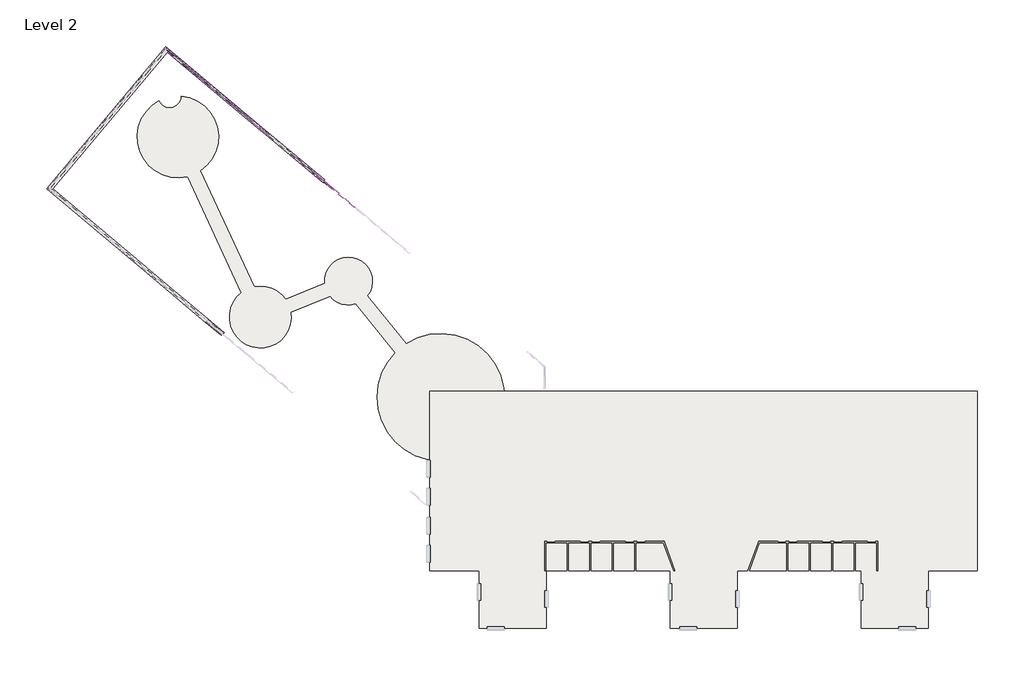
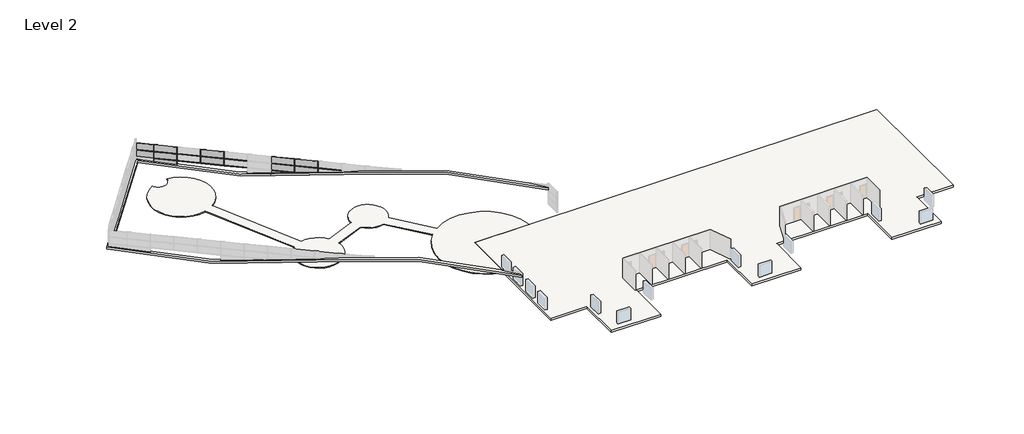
# One storey, part 4 of 4: 31 members, 13 plates, 2 slabs, 1 roof.
"""IFC4 building model written with IfcOpenShell, lengths in millimetres."""

from ifc_helpers import new_model, si_unit, frame, origin, place, context, project, spatial, polyline, circle_curve, ellipse_curve, faceted_brep, transform, mapped, element, save
from ifc_brep_helpers import plane_surface, cylinder_surface, revolved_surface, advanced_brep
from components import member_e6b937b8, member_cde82aea, member_70ad9082, member_a898b6db, member_0bdf605d, member_eaba9652, member_66afc3ec, member_c9c0cf30, member_407e5b0f, member_b57fb3e6, member_07ca578d, member_26bdc30a, system_panel_glazed_a2c5a472, system_panel_glazed_ccf48815, system_panel_glazed_69d86347, system_panel_glazed_9bbf47e9, system_panel_glazed_cec11053, system_panel_glazed_2896c521

model = new_model("IFC4")

# Units and contexts
model_context = context("Model", 3, world=origin())
ifc_project = project(units=[si_unit("LENGTHUNIT", "METRE", prefix="MILLI")], contexts=[model_context])

# Site, building, storey
site = spatial("IfcSite", under=ifc_project)
building = spatial("IfcBuilding", under=site)
storey = spatial("IfcBuildingStorey", under=building, Name="Level 2", Elevation=3048.0)

# Members
placement = place(None, origin())
member_shape = member_e6b937b8(model_context)
element("IfcMember", 1, ObjectType="Rectangular Mullion : 1.5\" x 2.5\" rectangular", at=placement, inside=storey, context=model_context, shape_type="MappedRepresentation", body=[
    mapped(member_shape, transform((-44606.1504378, 46018.2846161, 5066.7444177), x_axis=(0.76604444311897, -0.6427876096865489, 0.0), y_axis=(0.6427876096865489, 0.76604444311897, 0.0), z_axis=(0.0, 0.0, 1.0))),
])
element("IfcMember", 2, ObjectType="Rectangular Mullion : 1.5\" x 2.5\" rectangular", at=placement, inside=storey, context=model_context, shape_type="MappedRepresentation", body=[
    mapped(member_shape, transform((-42271.2469751, 44059.0679818, 5066.7444177), x_axis=(0.76604444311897, -0.6427876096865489, 0.0), y_axis=(0.6427876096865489, 0.76604444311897, 0.0), z_axis=(0.0, 0.0, 1.0))),
])
element("IfcMember", 3, ObjectType="Rectangular Mullion : 1.5\" x 2.5\" rectangular", at=placement, inside=storey, context=model_context, shape_type="MappedRepresentation", body=[
    mapped(member_shape, transform((-39936.3435125, 42099.8513475, 5066.7444177), x_axis=(0.76604444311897, -0.6427876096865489, 0.0), y_axis=(0.6427876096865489, 0.76604444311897, 0.0), z_axis=(0.0, 0.0, 1.0))),
])
element("IfcMember", 4, ObjectType="Rectangular Mullion : 1.5\" x 2.5\" rectangular", at=placement, inside=storey, context=model_context, shape_type="MappedRepresentation", body=[
    mapped(member_shape, transform((-37601.4400499, 40140.6347131, 5066.7444177), x_axis=(0.76604444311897, -0.6427876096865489, 0.0), y_axis=(0.6427876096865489, 0.76604444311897, 0.0), z_axis=(0.0, 0.0, 1.0))),
])
element("IfcMember", 5, ObjectType="Rectangular Mullion : 1.5\" x 2.5\" rectangular", at=placement, inside=storey, context=model_context, shape_type="MappedRepresentation", body=[
    mapped(member_shape, transform((-30596.729662, 34262.9848102, 5066.7444177), x_axis=(0.76604444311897, -0.6427876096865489, 0.0), y_axis=(0.6427876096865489, 0.76604444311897, 0.0), z_axis=(0.0, 0.0, 1.0))),
])
element("IfcMember", 6, ObjectType="Rectangular Mullion : 1.5\" x 2.5\" rectangular", at=placement, inside=storey, context=model_context, shape_type="MappedRepresentation", body=[
    mapped(member_shape, transform((-44606.1504378, 46018.2846161, 6133.5444177), x_axis=(0.76604444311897, -0.6427876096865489, 0.0), y_axis=(0.6427876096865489, 0.76604444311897, 0.0), z_axis=(0.0, 0.0, 1.0))),
])
element("IfcMember", 7, ObjectType="Rectangular Mullion : 1.5\" x 2.5\" rectangular", at=placement, inside=storey, context=model_context, shape_type="MappedRepresentation", body=[
    mapped(member_shape, transform((-42271.2469751, 44059.0679818, 6133.5444177), x_axis=(0.76604444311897, -0.6427876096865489, 0.0), y_axis=(0.6427876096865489, 0.76604444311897, 0.0), z_axis=(0.0, 0.0, 1.0))),
])
element("IfcMember", 8, ObjectType="Rectangular Mullion : 1.5\" x 2.5\" rectangular", at=placement, inside=storey, context=model_context, shape_type="MappedRepresentation", body=[
    mapped(member_shape, transform((-39936.3435125, 42099.8513475, 6133.5444177), x_axis=(0.76604444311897, -0.6427876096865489, 0.0), y_axis=(0.6427876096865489, 0.76604444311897, 0.0), z_axis=(0.0, 0.0, 1.0))),
])
element("IfcMember", 9, ObjectType="Rectangular Mullion : 1.5\" x 2.5\" rectangular", at=placement, inside=storey, context=model_context, shape_type="MappedRepresentation", body=[
    mapped(member_shape, transform((-37601.4400499, 40140.6347131, 6133.5444177), x_axis=(0.76604444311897, -0.6427876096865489, 0.0), y_axis=(0.6427876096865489, 0.76604444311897, 0.0), z_axis=(0.0, 0.0, 1.0))),
])
element("IfcMember", 10, ObjectType="Rectangular Mullion : 1.5\" x 2.5\" rectangular", at=placement, inside=storey, context=model_context, shape_type="MappedRepresentation", body=[
    mapped(member_shape, transform((-30596.729662, 34262.9848102, 6133.5444177), x_axis=(0.76604444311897, -0.6427876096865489, 0.0), y_axis=(0.6427876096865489, 0.76604444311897, 0.0), z_axis=(0.0, 0.0, 1.0))),
])
element("IfcMember", 11, ObjectType="Rectangular Mullion : 1.5\" x 2.5\" rectangular", at=placement, inside=storey, context=model_context, shape_type="MappedRepresentation", body=[
    mapped(member_shape, transform((-28261.8261994, 32303.7681758, 6133.5444177), x_axis=(0.76604444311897, -0.6427876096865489, 0.0), y_axis=(0.6427876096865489, 0.76604444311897, 0.0), z_axis=(0.0, 0.0, 1.0))),
])
member_2_shape = member_cde82aea(model_context)
element("IfcMember", 12, ObjectType="Rectangular Mullion : 1.5\" x 2.5\" rectangular", at=placement, inside=storey, context=model_context, shape_type="MappedRepresentation", body=[
    mapped(member_2_shape, transform((-44606.1504378, 46018.2846161, 3999.9444177), x_axis=(0.76604444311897, -0.6427876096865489, 0.0), y_axis=(0.6427876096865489, 0.76604444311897, 0.0), z_axis=(0.0, 0.0, 1.0))),
])
member_3_shape = member_70ad9082(model_context)
element("IfcMember", 13, ObjectType="Rectangular Mullion : 1.5\" x 2.5\" rectangular", at=placement, inside=storey, context=model_context, shape_type="MappedRepresentation", body=[
    mapped(member_3_shape, transform((-42271.2469751, 44059.0679818, 3999.9444177), x_axis=(0.76604444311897, -0.6427876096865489, 0.0), y_axis=(0.6427876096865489, 0.76604444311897, 0.0), z_axis=(0.0, 0.0, 1.0))),
])
member_4_shape = member_a898b6db(model_context)
element("IfcMember", 14, ObjectType="Rectangular Mullion : 1.5\" x 2.5\" rectangular", at=placement, inside=storey, context=model_context, shape_type="MappedRepresentation", body=[
    mapped(member_4_shape, transform((-30596.729662, 34262.9848102, 3999.9444177), x_axis=(0.76604444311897, -0.6427876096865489, 0.0), y_axis=(0.6427876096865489, 0.76604444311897, 0.0), z_axis=(0.0, 0.0, 1.0))),
])
member_5_shape = member_0bdf605d(model_context)
element("IfcMember", 15, ObjectType="Rectangular Mullion : 1.5\" x 2.5\" rectangular", at=placement, inside=storey, context=model_context, shape_type="MappedRepresentation", body=[
    mapped(member_5_shape, transform((-28261.8261994, 32303.7681758, 5066.7444177), x_axis=(0.76604444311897, -0.6427876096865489, 0.0), y_axis=(0.6427876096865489, 0.76604444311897, 0.0), z_axis=(0.0, 0.0, 1.0))),
])
member_6_shape = member_eaba9652(model_context)
element("IfcMember", 16, ObjectType="Rectangular Mullion : 2.5\" x 5\" rectangular", at=placement, inside=storey, context=model_context, shape_type="MappedRepresentation", body=[
    mapped(member_6_shape, transform((-44606.1504378, 46018.2846161, 4031.6944177), x_axis=(0.0, 0.0, 1.0), y_axis=(0.64278760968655, 0.7660444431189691, 0.0), z_axis=(-0.7660444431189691, 0.64278760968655, 0.0))),
])
element("IfcMember", 17, ObjectType="Rectangular Mullion : 2.5\" x 5\" rectangular", at=placement, inside=storey, context=model_context, shape_type="MappedRepresentation", body=[
    mapped(member_6_shape, transform((-42271.2469751, 44059.0679818, 4031.6944177), x_axis=(0.0, 0.0, 1.0), y_axis=(0.6427876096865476, 0.7660444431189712, 0.0), z_axis=(-0.7660444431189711, 0.6427876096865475, 0.0))),
])
element("IfcMember", 18, ObjectType="Rectangular Mullion : 2.5\" x 5\" rectangular", at=placement, inside=storey, context=model_context, shape_type="MappedRepresentation", body=[
    mapped(member_6_shape, transform((-39936.3435125, 42099.8513475, 4031.6944177), x_axis=(0.0, 0.0, 1.0), y_axis=(0.6427876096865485, 0.7660444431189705, 0.0), z_axis=(-0.7660444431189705, 0.6427876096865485, 0.0))),
])
element("IfcMember", 19, ObjectType="Rectangular Mullion : 2.5\" x 5\" rectangular", at=placement, inside=storey, context=model_context, shape_type="MappedRepresentation", body=[
    mapped(member_6_shape, transform((-37601.4400499, 40140.6347131, 4031.6944177), x_axis=(0.0, 0.0, 1.0), y_axis=(0.642787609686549, 0.76604444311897, 0.0), z_axis=(-0.7660444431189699, 0.6427876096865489, 0.0))),
])
element("IfcMember", 20, ObjectType="Rectangular Mullion : 2.5\" x 5\" rectangular", at=placement, inside=storey, context=model_context, shape_type="MappedRepresentation", body=[
    mapped(member_6_shape, transform((-44606.1504378, 46018.2846161, 5098.4944177), x_axis=(0.0, 0.0, 1.0), y_axis=(0.6427876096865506, 0.7660444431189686, 0.0), z_axis=(-0.7660444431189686, 0.6427876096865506, 0.0))),
])
element("IfcMember", 21, ObjectType="Rectangular Mullion : 2.5\" x 5\" rectangular", at=placement, inside=storey, context=model_context, shape_type="MappedRepresentation", body=[
    mapped(member_6_shape, transform((-42271.2469751, 44059.0679818, 5098.4944177), x_axis=(0.0, 0.0, 1.0), y_axis=(0.6427876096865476, 0.7660444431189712, 0.0), z_axis=(-0.7660444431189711, 0.6427876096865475, 0.0))),
])
element("IfcMember", 22, ObjectType="Rectangular Mullion : 2.5\" x 5\" rectangular", at=placement, inside=storey, context=model_context, shape_type="MappedRepresentation", body=[
    mapped(member_6_shape, transform((-39936.3435125, 42099.8513475, 5098.4944177), x_axis=(0.0, 0.0, 1.0), y_axis=(0.6427876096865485, 0.7660444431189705, 0.0), z_axis=(-0.7660444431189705, 0.6427876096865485, 0.0))),
])
element("IfcMember", 23, ObjectType="Rectangular Mullion : 2.5\" x 5\" rectangular", at=placement, inside=storey, context=model_context, shape_type="MappedRepresentation", body=[
    mapped(member_6_shape, transform((-37601.4400499, 40140.6347131, 5098.4944177), x_axis=(0.0, 0.0, 1.0), y_axis=(0.642787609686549, 0.76604444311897, 0.0), z_axis=(-0.7660444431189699, 0.6427876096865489, 0.0))),
])
element("IfcMember", 24, ObjectType="Rectangular Mullion : 2.5\" x 5\" rectangular", at=placement, inside=storey, context=model_context, shape_type="MappedRepresentation", body=[
    mapped(member_6_shape, transform((-30596.729662, 34262.9848102, 5098.4944177), x_axis=(0.0, 0.0, 1.0), y_axis=(0.6427876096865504, 0.7660444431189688, 0.0), z_axis=(-0.7660444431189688, 0.6427876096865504, 0.0))),
])
element("IfcMember", 25, ObjectType="Rectangular Mullion : 2.5\" x 5\" rectangular", at=placement, inside=storey, context=model_context, shape_type="MappedRepresentation", body=[
    mapped(member_6_shape, transform((-28261.8261994, 32303.7681758, 5098.4944177), x_axis=(0.0, 0.0, 1.0), y_axis=(0.6427876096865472, 0.7660444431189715, 0.0), z_axis=(-0.7660444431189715, 0.6427876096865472, 0.0))),
])
member_7_shape = member_66afc3ec(model_context)
element("IfcMember", 26, ObjectType="Rectangular Mullion : 2.5\" x 5\" rectangular", at=placement, inside=storey, context=model_context, shape_type="MappedRepresentation", body=[
    mapped(member_7_shape, transform((-30596.729662, 34262.9848102, 4031.6944177), x_axis=(0.0, 0.0, 1.0), y_axis=(0.6427876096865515, 0.766044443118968, 0.0), z_axis=(-0.7660444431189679, 0.6427876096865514, 0.0))),
])
member_8_shape = member_c9c0cf30(model_context)
element("IfcMember", 27, ObjectType="Rectangular Mullion : 2.5\" x 5\" rectangular", at=placement, inside=storey, context=model_context, shape_type="MappedRepresentation", body=[
    mapped(member_8_shape, transform((-44606.1504378, 46018.2846161, 3322.3575493), x_axis=(-0.08490531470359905, 0.07124401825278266, -0.9938387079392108), y_axis=(0.642787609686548, 0.7660444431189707, 0.0), z_axis=(0.7613246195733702, -0.6388272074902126, -0.11083601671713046))),
])
member_9_shape = member_407e5b0f(model_context)
element("IfcMember", 28, ObjectType="Rectangular Mullion : 2.5\" x 5\" rectangular", at=placement, inside=storey, context=model_context, shape_type="MappedRepresentation", body=[
    mapped(member_9_shape, transform((-42271.2469751, 44059.0679818, 3089.6166886), x_axis=(-0.05832425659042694, 0.04893986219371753, -0.9970973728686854), y_axis=(0.6427876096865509, 0.7660444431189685, 0.0), z_axis=(0.7638209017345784, -0.6409218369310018, -0.07613690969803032))),
])
member_10_shape = member_b57fb3e6(model_context)
element("IfcMember", 29, ObjectType="Rectangular Mullion : 2.5\" x 5\" rectangular", at=placement, inside=storey, context=model_context, shape_type="MappedRepresentation", body=[
    mapped(member_10_shape, transform((-30596.729662, 34262.9848102, 3721.7624623), x_axis=(0.09155191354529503, -0.07682117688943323, -0.9928326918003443), y_axis=(0.6427876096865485, 0.7660444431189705, 0.0), z_axis=(0.7605539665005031, -0.6381805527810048, 0.11951253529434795))),
])
member_11_shape = member_07ca578d(model_context)
element("IfcMember", 30, ObjectType="Rectangular Mullion : 2.5\" x 5\" rectangular", at=placement, inside=storey, context=model_context, shape_type="MappedRepresentation", body=[
    mapped(member_11_shape, transform((-28261.8261994, 32303.7681758, 4211.507788), x_axis=(0.1314145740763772, -0.11026992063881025, -0.9851754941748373), y_axis=(0.6427876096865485, 0.7660444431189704, 0.0), z_axis=(0.7546882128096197, -0.6332586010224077, 0.17154954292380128))),
])
member_12_shape = member_26bdc30a(model_context)
element("IfcMember", 31, ObjectType="Rectangular Mullion : 2.5\" x 5\" rectangular", at=placement, inside=storey, context=model_context, shape_type="MappedRepresentation", body=[
    mapped(member_12_shape, transform((-29052.8690012, 32967.5318991, 4031.6944177), x_axis=(0.11643686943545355, -0.09770213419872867, -0.9883808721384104), y_axis=(0.6427876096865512, 0.7660444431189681, 0.0), z_axis=(0.7571436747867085, -0.6353189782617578, 0.15199753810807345))),
])

# Plates
system_panel_glazed_shape = system_panel_glazed_a2c5a472(model_context)
element("IfcPlate", 32, ObjectType="System Panel : Glazed", at=placement, inside=storey, context=model_context, shape_type="MappedRepresentation", body=[
    mapped(system_panel_glazed_shape, transform((-43438.6987064, 45038.6762989, 4063.4444177), x_axis=(0.76604444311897, -0.6427876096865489, 0.0), y_axis=(0.6427876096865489, 0.76604444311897, 0.0), z_axis=(0.0, 0.0, 1.0))),
])
element("IfcPlate", 33, ObjectType="System Panel : Glazed", at=placement, inside=storey, context=model_context, shape_type="MappedRepresentation", body=[
    mapped(system_panel_glazed_shape, transform((-38768.8917812, 41120.2430303, 4063.4444177), x_axis=(0.76604444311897, -0.6427876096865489, 0.0), y_axis=(0.6427876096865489, 0.76604444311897, 0.0), z_axis=(0.0, 0.0, 1.0))),
])
element("IfcPlate", 34, ObjectType="System Panel : Glazed", at=placement, inside=storey, context=model_context, shape_type="MappedRepresentation", body=[
    mapped(system_panel_glazed_shape, transform((-31764.1813933, 35242.5931273, 4063.4444177), x_axis=(0.76604444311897, -0.6427876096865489, 0.0), y_axis=(0.6427876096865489, 0.76604444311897, 0.0), z_axis=(0.0, 0.0, 1.0))),
])
element("IfcPlate", 35, ObjectType="System Panel : Glazed", at=placement, inside=storey, context=model_context, shape_type="MappedRepresentation", body=[
    mapped(system_panel_glazed_shape, transform((-43438.6987064, 45038.6762989, 5130.2444177), x_axis=(0.76604444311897, -0.6427876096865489, 0.0), y_axis=(0.6427876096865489, 0.76604444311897, 0.0), z_axis=(0.0, 0.0, 1.0))),
])
element("IfcPlate", 36, ObjectType="System Panel : Glazed", at=placement, inside=storey, context=model_context, shape_type="MappedRepresentation", body=[
    mapped(system_panel_glazed_shape, transform((-38768.8917812, 41120.2430303, 5130.2444177), x_axis=(0.76604444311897, -0.6427876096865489, 0.0), y_axis=(0.6427876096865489, 0.76604444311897, 0.0), z_axis=(0.0, 0.0, 1.0))),
])
element("IfcPlate", 37, ObjectType="System Panel : Glazed", at=placement, inside=storey, context=model_context, shape_type="MappedRepresentation", body=[
    mapped(system_panel_glazed_shape, transform((-31764.1813933, 35242.5931273, 5130.2444177), x_axis=(0.76604444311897, -0.6427876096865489, 0.0), y_axis=(0.6427876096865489, 0.76604444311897, 0.0), z_axis=(0.0, 0.0, 1.0))),
])
element("IfcPlate", 38, ObjectType="System Panel : Glazed", at=placement, inside=storey, context=model_context, shape_type="MappedRepresentation", body=[
    mapped(system_panel_glazed_shape, transform((-29429.2779307, 33283.376493, 5130.2444177), x_axis=(0.76604444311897, -0.6427876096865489, 0.0), y_axis=(0.6427876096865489, 0.76604444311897, 0.0), z_axis=(0.0, 0.0, 1.0))),
])
system_panel_glazed_2_shape = system_panel_glazed_ccf48815(model_context)
element("IfcPlate", 39, ObjectType="System Panel : Glazed", at=placement, inside=storey, context=model_context, shape_type="MappedRepresentation", body=[
    mapped(system_panel_glazed_2_shape, transform((-45480.5368253, 46751.9819114, 4063.4444177), x_axis=(0.76604444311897, -0.6427876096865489, 0.0), y_axis=(0.6427876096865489, 0.76604444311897, 0.0), z_axis=(0.0, 0.0, 1.0))),
])
element("IfcPlate", 40, ObjectType="System Panel : Glazed", at=placement, inside=storey, context=model_context, shape_type="MappedRepresentation", body=[
    mapped(system_panel_glazed_2_shape, transform((-45480.5368253, 46751.9819114, 5130.2444177), x_axis=(0.76604444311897, -0.6427876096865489, 0.0), y_axis=(0.6427876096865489, 0.76604444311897, 0.0), z_axis=(0.0, 0.0, 1.0))),
])
system_panel_glazed_3_shape = system_panel_glazed_69d86347(model_context)
element("IfcPlate", 41, ObjectType="System Panel : Glazed", at=placement, inside=storey, context=model_context, shape_type="MappedRepresentation", body=[
    mapped(system_panel_glazed_3_shape, transform((-43438.6987064, 45038.6762989, 3154.7561724), x_axis=(0.76604444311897, -0.6427876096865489, 0.0), y_axis=(0.6427876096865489, 0.76604444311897, 0.0), z_axis=(0.0, 0.0, 1.0))),
])
system_panel_glazed_4_shape = system_panel_glazed_9bbf47e9(model_context)
element("IfcPlate", 42, ObjectType="System Panel : Glazed", at=placement, inside=storey, context=model_context, shape_type="MappedRepresentation", body=[
    mapped(system_panel_glazed_4_shape, transform((-31764.1813933, 35242.5931273, 3421.1101004), x_axis=(0.76604444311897, -0.6427876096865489, 0.0), y_axis=(0.6427876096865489, 0.76604444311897, 0.0), z_axis=(0.0, 0.0, 1.0))),
])
system_panel_glazed_5_shape = system_panel_glazed_cec11053(model_context)
element("IfcPlate", 43, ObjectType="System Panel : Glazed", at=placement, inside=storey, context=model_context, shape_type="MappedRepresentation", body=[
    mapped(system_panel_glazed_5_shape, transform((-30056.5958868, 33809.7587586, 3788.9385429), x_axis=(0.76604444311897, -0.6427876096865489, 0.0), y_axis=(0.6427876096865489, 0.76604444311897, 0.0), z_axis=(0.0, 0.0, 1.0))),
])
system_panel_glazed_6_shape = system_panel_glazed_2896c521(model_context)
element("IfcPlate", 44, ObjectType="System Panel : Glazed", at=placement, inside=storey, context=model_context, shape_type="MappedRepresentation", body=[
    mapped(system_panel_glazed_6_shape, transform((-29429.2779307, 33283.376493, 4063.4444177), x_axis=(0.76604444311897, -0.6427876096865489, 0.0), y_axis=(0.6427876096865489, 0.76604444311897, 0.0), z_axis=(0.0, 0.0, 1.0))),
])

# Roof
element("IfcRoof", 45, ObjectType="Generic - 12\"", at=placement, inside=storey, context=model_context, shape_type="AdvancedBrep", body=[
    advanced_brep(
    [(-38541.873744, 14859.7896556, 4891.5614291), (-59399.8262086, 32361.6898758, 3610.4914456), (-59399.8262086, 32361.6898758, 3303.154665), (-38490.2689126, 14816.4880606, 4594.2989975), (-18129.5386573, -2268.1931871, 5433.4598778), (-18129.5386573, -2268.1931871, 5742.1726124), (-46437.3632369, 47809.7516913, 3610.4914456), (-25579.4107722, 30307.8514711, 4891.5614291), (-5216.3941827, 13221.2517611, 5752.4677752), (-5216.3941827, 13221.2517611, 5443.8010671), (-25527.8059409, 30264.5498761, 4594.2989975), (-46437.3632369, 47809.7516913, 3303.154665), (-18129.5386573, -1685.8673129, 5801.1719999), (-38255.1342262, 15201.5125061, 4891.5614291), (-25811.0473222, 30031.7977805, 4891.5614291), (-5448.0307327, 12945.1980705, 5752.4677752), (-58726.3683048, 32378.9174712, 3546.7705578), (-46282.2814009, 47209.2027456, 3546.7705578), (-25759.4424909, 29988.4961855, 4594.2989975), (-46282.2814009, 47209.2027456, 3239.6860321), (-58726.3683048, 32378.9174712, 3239.6860321), (-38203.5293948, 15158.2109112, 4594.2989975), (-18129.5386573, -1685.8673129, 5492.7228474), (-5448.0307327, 12945.1980705, 5443.8010671)],
    [
        (0, 1, circle_curve(frame((-51732.5105232, 25928.048112, 80874.3843597), z_axis=(0.6427876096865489, 0.76604444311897, 0.0), x_axis=(0.76604444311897, -0.6427876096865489, 0.0)), 77909.4899509)),
        (1, 2),
        (2, 3, circle_curve(frame((-51732.5105232, 25928.048112, 80874.3843597), z_axis=(-0.6427876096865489, -0.76604444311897, 0.0), x_axis=(0.76604444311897, -0.6427876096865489, 0.0)), 78214.2899509)),
        (3, 4, circle_curve(frame((-26650.2147167, 4881.5029517, -63608.6813832), z_axis=(0.6427876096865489, 0.76604444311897, 0.0), x_axis=(0.76604444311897, -0.6427876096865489, 0.0)), 69932.3769458)),
        (4, 5),
        (5, 0, circle_curve(frame((-26650.2147167, 4881.5029517, -63608.6813832), z_axis=(-0.6427876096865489, -0.76604444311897, 0.0), x_axis=(0.76604444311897, -0.6427876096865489, 0.0)), 70237.1769458)),
        (6, 7, circle_curve(frame((-38770.0475514, 41376.1099275, 80874.3843597), z_axis=(-0.6427876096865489, -0.76604444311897, 0.0), x_axis=(0.76604444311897, -0.6427876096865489, 0.0)), 77909.4899509)),
        (7, 8, circle_curve(frame((-13687.7517449, 20329.5647672, -63608.6813832), z_axis=(0.6427876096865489, 0.76604444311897, 0.0), x_axis=(0.76604444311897, -0.6427876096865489, 0.0)), 70237.1769458)),
        (8, 9),
        (9, 10, circle_curve(frame((-13687.7517449, 20329.5647672, -63608.6813832), z_axis=(-0.6427876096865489, -0.76604444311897, 0.0), x_axis=(0.76604444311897, -0.6427876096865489, 0.0)), 69932.3769458)),
        (10, 11, circle_curve(frame((-38770.0475514, 41376.1099275, 80874.3843597), z_axis=(0.6427876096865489, 0.76604444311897, 0.0), x_axis=(0.76604444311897, -0.6427876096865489, 0.0)), 78214.2899509)),
        (11, 6),
        (5, 12, ellipse_curve(frame((-18129.5386573, 15036.0492568, -63608.6813832), z_axis=(-1.0, 0.0, 0.0), x_axis=(0.0, -1.0, 0.0)), 109269.649706, 70237.1769458)),
        (12, 13, circle_curve(frame((-26363.4751989, 5223.2258022, -63608.6813832), z_axis=(-0.6427876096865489, -0.76604444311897, 0.0), x_axis=(0.76604444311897, -0.6427876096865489, 0.0)), 70237.1769458)),
        (13, 0),
        (7, 14),
        (14, 15, circle_curve(frame((-13919.3882949, 20053.5110765, -63608.6813832), z_axis=(0.6427876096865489, 0.76604444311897, 0.0), x_axis=(0.76604444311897, -0.6427876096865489, 0.0)), 70237.1769458)),
        (15, 8),
        (13, 16, circle_curve(frame((-51445.7710054, 26269.7709625, 80874.3843597), z_axis=(0.6427876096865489, 0.76604444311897, 0.0), x_axis=(0.76604444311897, -0.6427876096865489, 0.0)), 77909.4899509)),
        (16, 17),
        (17, 14, circle_curve(frame((-39001.6841014, 41100.0562369, 80874.3843597), z_axis=(-0.6427876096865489, -0.76604444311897, 0.0), x_axis=(0.76604444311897, -0.6427876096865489, 0.0)), 77909.4899509)),
        (6, 1),
        (11, 2),
        (10, 18),
        (18, 19, circle_curve(frame((-39001.6841014, 41100.0562369, 80874.3843597), z_axis=(0.6427876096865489, 0.76604444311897, 0.0), x_axis=(0.76604444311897, -0.6427876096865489, 0.0)), 78214.2899509)),
        (19, 20),
        (20, 21, circle_curve(frame((-51445.7710054, 26269.7709625, 80874.3843597), z_axis=(-0.6427876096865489, -0.76604444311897, 0.0), x_axis=(0.76604444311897, -0.6427876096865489, 0.0)), 78214.2899509)),
        (21, 3),
        (21, 22, circle_curve(frame((-26363.4751989, 5223.2258022, -63608.6813832), z_axis=(0.6427876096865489, 0.76604444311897, 0.0), x_axis=(0.76604444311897, -0.6427876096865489, 0.0)), 69932.3769458)),
        (22, 4, ellipse_curve(frame((-18129.5386573, 15036.0492568, -63608.6813832), z_axis=(1.0, 0.0, 0.0), x_axis=(0.0, 1.0, 0.0)), 108795.4650836, 69932.3769458)),
        (9, 23),
        (23, 18, circle_curve(frame((-13919.3882949, 20053.5110765, -63608.6813832), z_axis=(-0.6427876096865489, -0.76604444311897, 0.0), x_axis=(0.76604444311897, -0.6427876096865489, 0.0)), 69932.3769458)),
        (19, 17),
        (16, 20),
        (12, 22),
        (15, 23),
    ],
    [
        plane_surface(frame((27154.584383, -40266.0841284, -63608.6813832), z_axis=(-0.6427876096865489, -0.76604444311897, 0.0), x_axis=(0.0, 0.0, 1.0))),
        plane_surface(frame((40117.0473548, -24818.022313, -63608.6813832), z_axis=(0.6427876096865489, 0.76604444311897, 0.0), x_axis=(0.0, 0.0, -1.0))),
        cylinder_surface(frame((-13687.7517449, 20329.5647672, -63608.6813832), z_axis=(-0.6427876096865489, -0.76604444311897, 0.0), x_axis=(0.76604444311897, -0.6427876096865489, 0.0)), 70237.1769458),
        revolved_surface(polyline([(20912.084291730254, -8703.144889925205, 80874.3843597), (7949.621319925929, -24151.206705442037, 80874.3843597)]), (-38770.0475514, 41376.1099275, 80874.3843597), (0.6427876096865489, 0.76604444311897, 0.0)),
        plane_surface(frame((-59399.8262086, 32361.6898758, 3610.4914456), z_axis=(-0.7660444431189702, 0.6427876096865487, 0.0), x_axis=(0.6427876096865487, 0.7660444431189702, 0.0))),
        cylinder_surface(frame((-38770.0475514, 41376.1099275, 80874.3843597), z_axis=(-0.6427876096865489, -0.76604444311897, 0.0), x_axis=(0.76604444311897, -0.6427876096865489, 0.0)), 78214.2899509),
        revolved_surface(polyline([(89013.07884957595, 33928.183507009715, -63608.6813832), (-18129.538657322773, -93759.41582678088, -63608.6813832)]), (-13687.7517449, 20329.5647672, -63608.6813832), (0.6427876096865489, 0.76604444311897, 0.0)),
        revolved_surface(polyline([(39883.55700853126, -24622.1006494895, -63608.6813832), (39651.92045850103, -24898.154340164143, -63608.6813832)]), (-13687.7517449, 20329.5647672, -63608.6813832), (0.6427876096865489, 0.76604444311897, 0.0)),
        plane_surface(frame((-46282.2814009, 47209.2027456, 17129.4748337), z_axis=(0.7660444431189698, -0.6427876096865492, 0.0), x_axis=(0.0, 0.0, -1.0))),
        plane_surface(frame((-58726.3683048, 32378.9174712, 17129.4748337), z_axis=(0.6427876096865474, 0.7660444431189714, 0.0), x_axis=(0.0, 0.0, -1.0))),
        plane_surface(frame((-18129.5386573, -1685.8673129, 17129.4748337), z_axis=(1.0, 0.0, 0.0), x_axis=(0.0, 0.0, -1.0))),
        plane_surface(frame((-4745.4828273, 13782.4620607, 17129.4748337), z_axis=(0.7660444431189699, -0.6427876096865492, 0.0), x_axis=(0.0, 0.0, -1.0))),
        plane_surface(frame((-5448.0307327, 12945.1980705, 17129.4748337), z_axis=(-0.6427876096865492, -0.7660444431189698, 0.0), x_axis=(0.0, 0.0, -1.0))),
    ],
    [
        (0, [[1, 2, 3, 4, 5, 6]]),
        (1, [[7, 8, 9, 10, 11, 12]]),
        (2, [[-6, 13, 14, 15]]),
        (2, [[-8, 16, 17, 18]]),
        (3, [[-1, -15, 19, 20, 21, -16, -7, 22]]),
        (4, [[-2, -22, -12, 23]]),
        (5, [[-3, -23, -11, 24, 25, 26, 27, 28]]),
        (6, [[-4, -28, 29, 30]]),
        (7, [[-10, 31, 32, -24]]),
        (8, [[33, -20, 34, -26]]),
        (9, [[-34, -19, -14, 35, -29, -27]]),
        (10, [[-35, -13, -5, -30]]),
        (11, [[36, -31, -9, -18]]),
        (12, [[-33, -25, -32, -36, -17, -21]]),
    ],
),
])

# Slabs
element("IfcSlab", 46, ObjectType="Generic - 12\"", at=placement, inside=storey, context=model_context, shape_type="Brep", body=[
    faceted_brep([(41623.9613427, 10394.7370607, 2743.2), (41623.9613427, -9090.2379393, 2743.2), (36289.9613427, -9090.2379393, 2743.2), (36289.9613427, -15338.6379393, 2743.2), (28996.9863427, -15338.6379393, 2743.2), (28996.9863427, -9090.2379393, 2743.2), (15563.5613427, -9090.2379393, 2743.2), (15563.5613427, -15338.6379393, 2743.2), (8270.5863427, -15338.6379393, 2743.2), (8270.5863427, -9090.2379393, 2743.2), (-5162.8386573, -9090.2379393, 2743.2), (-5162.8386573, -15338.6379393, 2743.2), (-12455.8136573, -15338.6379393, 2743.2), (-12455.8136573, -9090.2379393, 2743.2), (-17789.8136573, -9090.2379393, 2743.2), (-17789.8136573, 10394.7370607, 2743.2), (41623.9613427, 10394.7370607, 3048.0), (-9723.7261573, 10394.7370607, 3048.0), (-17789.8136573, 10394.7370607, 3048.0), (-17789.8136573, 2943.4272892, 3048.0), (-17789.8136573, -9090.2379393, 3048.0), (-12455.8136573, -9090.2379393, 3048.0), (-12455.8136573, -15338.6379393, 3048.0), (-5162.8386573, -15338.6379393, 3048.0), (-5162.8386573, -9090.2379393, 3048.0), (8270.5863427, -9090.2379393, 3048.0), (8270.5863427, -15338.6379393, 3048.0), (15563.5613427, -15338.6379393, 3048.0), (15563.5613427, -9090.2379393, 3048.0), (28996.9863427, -9090.2379393, 3048.0), (28996.9863427, -15338.6379393, 3048.0), (36289.9613427, -15338.6379393, 3048.0), (36289.9613427, -9090.2379393, 3048.0), (41623.9613427, -9090.2379393, 3048.0), (-17789.8136573, 10394.7370607, 2943.225)], [[[0, 1, 2, 3, 4, 5, 6, 7, 8, 9, 10, 11, 12, 13, 14, 15]], [[16, 17, 18, 19, 20, 21, 22, 23, 24, 25, 26, 27, 28, 29, 30, 31, 32, 33]], [[1, 0, 16, 33]], [[2, 1, 33, 32]], [[3, 2, 32, 31]], [[4, 3, 31, 30]], [[5, 4, 30, 29]], [[6, 5, 29, 28]], [[7, 6, 28, 27]], [[8, 7, 27, 26]], [[9, 8, 26, 25]], [[10, 9, 25, 24]], [[11, 10, 24, 23]], [[12, 11, 23, 22]], [[13, 12, 22, 21]], [[14, 13, 21, 20]], [[15, 14, 20, 19, 18, 34]], [[0, 15, 34, 18, 17, 16]]]),
])
element("IfcSlab", 47, ObjectType="LW Concrete on Metal Deck", at=placement, inside=storey, context=model_context, shape_type="AdvancedBrep", body=[
    advanced_brep(
    [(-17789.8136573, 10394.7370607, 2943.225), (-17789.8136573, 10382.0370607, 2943.225), (-17789.8136573, 9643.8495607, 2943.225), (-17789.8136573, 3243.0495607, 2943.225), (-17789.8136573, 2943.4272892, 2943.225), (-18129.5304274, 3011.2690591, 2943.225), (-21532.0628915, 14603.5660197, 2943.225), (-25823.9731366, 19881.7342596, 2943.225), (-28636.6715928, 20712.3701159, 2943.225), (-32877.8584432, 19001.3265577, 2943.225), (-38249.6329287, 21095.8761833, 2943.225), (-44092.582701, 33706.8435395, 2943.225), (-47201.8689537, 41913.5123204, 2943.225), (-44773.6124618, 42400.4142733, 2943.225), (-42698.1821143, 34322.4617766, 2943.225), (-36866.8431686, 21736.5543236, 2943.225), (-33462.0280981, 20409.0017009, 2943.225), (-29206.8537334, 22125.6883131, 2943.225), (-24575.150784, 20761.5608821, 2943.225), (-20349.6378577, 15565.0477092, 2943.225), (-9763.8612843, 10734.4539385, 2943.225), (-9723.7261573, 10394.7370607, 2943.225), (-9876.1261573, 10394.7370607, 2943.225), (-16886.5261573, 10394.7370607, 2943.225), (-17789.8136573, 2943.4272892, 3048.0), (-17789.8136573, 3243.0495607, 3048.0), (-17789.8136573, 9643.8495607, 3048.0), (-17789.8136573, 10382.0370607, 3048.0), (-17789.8136573, 10394.7370607, 3048.0), (-16886.5261573, 10394.7370607, 3048.0), (-9876.1261573, 10394.7370607, 3048.0), (-9723.7261573, 10394.7370607, 3048.0), (-9763.8612843, 10734.4539385, 3048.0), (-20349.6378577, 15565.0477092, 3048.0), (-24575.150784, 20761.5608821, 3048.0), (-29206.8537334, 22125.6883131, 3048.0), (-33462.0280981, 20409.0017009, 3048.0), (-36866.8431686, 21736.5543236, 3048.0), (-42698.1821143, 34322.4617766, 3048.0), (-44773.6124618, 42400.4142733, 3048.0), (-47201.8689537, 41913.5123204, 3048.0), (-44092.582701, 33706.8435395, 3048.0), (-38249.6329287, 21095.8761833, 3048.0), (-32877.8584432, 19001.3265577, 3048.0), (-28636.6715928, 20712.3701159, 3048.0), (-25823.9731366, 19881.7342596, 3048.0), (-21532.0628915, 14603.5660197, 3048.0), (-18129.5304274, 3011.2690591, 3048.0)],
    [
        (0, 1),
        (1, 2),
        (2, 3),
        (3, 4),
        (4, 5, circle_curve(frame((-16606.4056585, 9753.8299598, 2943.225), z_axis=(0.0, 0.0, -1.0), x_axis=(1.0, 0.0, 0.0)), 6912.4553545)),
        (5, 6, circle_curve(frame((-16606.4056585, 9753.8299598, 2943.225), z_axis=(0.0, 0.0, -1.0), x_axis=(1.0, 0.0, 0.0)), 6912.4551761)),
        (6, 7),
        (7, 8, circle_curve(frame((-26625.3924007, 22345.4655361, 2943.225), z_axis=(0.0, 0.0, -1.0), x_axis=(1.0, 0.0, 0.0)), 2590.8)),
        (8, 9),
        (9, 10, circle_curve(frame((-36185.6309232, 18453.6870225, 2943.225), z_axis=(0.0, 0.0, -1.0), x_axis=(1.0, 0.0, 0.0)), 3352.8)),
        (10, 11),
        (11, 12, circle_curve(frame((-45153.6422805, 37997.1834711, 2943.225), z_axis=(0.0, 0.0, -1.0), x_axis=(1.0, 0.0, 0.0)), 4419.6)),
        (12, 13, circle_curve(frame((-46043.1824594, 42433.4600177, 2943.225), z_axis=(0.0, 0.0, 1.0), x_axis=(1.0, 0.0, 0.0)), 1270.0)),
        (13, 14, circle_curve(frame((-45153.6422805, 37997.1834711, 2943.225), z_axis=(0.0, 0.0, -1.0), x_axis=(1.0, 0.0, 0.0)), 4419.6)),
        (14, 15),
        (15, 16, circle_curve(frame((-36185.6309232, 18453.6870225, 2943.225), z_axis=(0.0, 0.0, -1.0), x_axis=(1.0, 0.0, 0.0)), 3352.8)),
        (16, 17),
        (17, 18, circle_curve(frame((-26625.3924007, 22345.4655361, 2943.225), z_axis=(0.0, 0.0, -1.0), x_axis=(1.0, 0.0, 0.0)), 2590.8)),
        (18, 19),
        (19, 20, circle_curve(frame((-16606.4056585, 9753.8299598, 2943.225), z_axis=(0.0, 0.0, -1.0), x_axis=(1.0, 0.0, 0.0)), 6912.4553545)),
        (20, 21, circle_curve(frame((-16606.4056585, 9753.8299598, 2943.225), z_axis=(0.0, 0.0, -1.0), x_axis=(1.0, 0.0, 0.0)), 6912.4552006)),
        (21, 22),
        (22, 23),
        (23, 0),
        (24, 25),
        (25, 26),
        (26, 27),
        (27, 28),
        (28, 29),
        (29, 30),
        (30, 31),
        (31, 32, circle_curve(frame((-16606.4056585, 9753.8299598, 3048.0), z_axis=(0.0, 0.0, 1.0), x_axis=(1.0, 0.0, 0.0)), 6912.4553545)),
        (32, 33, circle_curve(frame((-16606.4056585, 9753.8299598, 3048.0), z_axis=(0.0, 0.0, 1.0), x_axis=(1.0, 0.0, 0.0)), 6912.4552006)),
        (33, 34),
        (34, 35, circle_curve(frame((-26625.3924007, 22345.4655361, 3048.0), z_axis=(0.0, 0.0, 1.0), x_axis=(1.0, 0.0, 0.0)), 2590.8)),
        (35, 36),
        (36, 37, circle_curve(frame((-36185.6309232, 18453.6870225, 3048.0), z_axis=(0.0, 0.0, 1.0), x_axis=(1.0, 0.0, 0.0)), 3352.8)),
        (37, 38),
        (38, 39, circle_curve(frame((-45153.6422805, 37997.1834711, 3048.0), z_axis=(0.0, 0.0, 1.0), x_axis=(1.0, 0.0, 0.0)), 4419.6)),
        (39, 40, circle_curve(frame((-46043.1824594, 42433.4600177, 3048.0), z_axis=(0.0, 0.0, -1.0), x_axis=(1.0, 0.0, 0.0)), 1270.0)),
        (40, 41, circle_curve(frame((-45153.6422805, 37997.1834711, 3048.0), z_axis=(0.0, 0.0, 1.0), x_axis=(1.0, 0.0, 0.0)), 4419.6)),
        (41, 42),
        (42, 43, circle_curve(frame((-36185.6309232, 18453.6870225, 3048.0), z_axis=(0.0, 0.0, 1.0), x_axis=(1.0, 0.0, 0.0)), 3352.8)),
        (43, 44),
        (44, 45, circle_curve(frame((-26625.3924007, 22345.4655361, 3048.0), z_axis=(0.0, 0.0, 1.0), x_axis=(1.0, 0.0, 0.0)), 2590.8)),
        (45, 46),
        (46, 47, circle_curve(frame((-16606.4056585, 9753.8299598, 3048.0), z_axis=(0.0, 0.0, 1.0), x_axis=(1.0, 0.0, 0.0)), 6912.4553545)),
        (47, 24, circle_curve(frame((-16606.4056585, 9753.8299598, 3048.0), z_axis=(0.0, 0.0, 1.0), x_axis=(1.0, 0.0, 0.0)), 6912.4551761)),
        (0, 28),
        (24, 4),
        (46, 6),
        (45, 7),
        (44, 8),
        (43, 9),
        (42, 10),
        (41, 11),
        (13, 39),
        (38, 14),
        (37, 15),
        (36, 16),
        (35, 17),
        (34, 18),
        (33, 19),
        (31, 21),
        (40, 12),
    ],
    [
        plane_surface(frame((-17789.8136573, 10394.7370607, 2943.225), z_axis=(0.0, 0.0, -1.0), x_axis=(-1.0, 0.0, 0.0))),
        plane_surface(frame((-17789.8136573, 10394.7370607, 3048.0), z_axis=(0.0, 0.0, 1.0), x_axis=(1.0, 0.0, 0.0))),
        plane_surface(frame((-17789.8136573, 10394.7370607, 2943.225), z_axis=(1.0, 0.0, 0.0), x_axis=(0.0, 0.0, 1.0))),
        cylinder_surface(frame((-16606.4056585, 9753.8299598, 3048.0), z_axis=(0.0, 0.0, -1.0), x_axis=(1.0, 0.0, 0.0)), 6912.4553545),
        plane_surface(frame((-21532.0628915, 14603.5660197, 2943.225), z_axis=(-0.7758694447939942, -0.630893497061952, 0.0), x_axis=(0.0, 0.0, 1.0))),
        cylinder_surface(frame((-26625.3924007, 22345.4655361, 3048.0), z_axis=(0.0, 0.0, -1.0), x_axis=(1.0, 0.0, 0.0)), 2590.8),
        plane_surface(frame((-28636.6715928, 20712.3701159, 2943.225), z_axis=(0.37413526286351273, -0.9273741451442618, 0.0), x_axis=(0.0, 0.0, 1.0))),
        cylinder_surface(frame((-36185.6309232, 18453.6870225, 3048.0), z_axis=(0.0, 0.0, -1.0), x_axis=(1.0, 0.0, 0.0)), 3352.8),
        plane_surface(frame((-38249.6329287, 21095.8761833, 2943.225), z_axis=(-0.9073423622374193, -0.4203924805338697, 0.0), x_axis=(0.0, 0.0, 1.0))),
        cylinder_surface(frame((-45153.6422805, 37997.1834711, 3048.0), z_axis=(0.0, 0.0, -1.0), x_axis=(1.0, 0.0, 0.0)), 4419.6),
        plane_surface(frame((-42698.1821143, 34322.4617766, 2943.225), z_axis=(0.9073423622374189, 0.42039248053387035, 0.0), x_axis=(0.0, 0.0, 1.0))),
        plane_surface(frame((-33462.0280981, 20409.0017009, 2943.225), z_axis=(-0.3741352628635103, 0.9273741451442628, 0.0), x_axis=(0.0, 0.0, 1.0))),
        plane_surface(frame((-24575.150784, 20761.5608821, 2943.225), z_axis=(0.7758694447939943, 0.6308934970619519, 0.0), x_axis=(0.0, 0.0, 1.0))),
        plane_surface(frame((-9723.7261573, 10394.7370607, 2943.225), z_axis=(0.0, -1.0, 0.0), x_axis=(0.0, 0.0, 1.0))),
        revolved_surface(polyline([(-44773.1824594, 42433.4600177, 3048.0), (-44773.1824594, 42433.4600177, 2943.225)]), (-46043.1824594, 42433.4600177, 3048.0), (0.0, 0.0, 1.0)),
    ],
    [
        (0, [[1, 2, 3, 4, 5, 6, 7, 8, 9, 10, 11, 12, 13, 14, 15, 16, 17, 18, 19, 20, 21, 22, 23, 24]]),
        (1, [[25, 26, 27, 28, 29, 30, 31, 32, 33, 34, 35, 36, 37, 38, 39, 40, 41, 42, 43, 44, 45, 46, 47, 48]]),
        (2, [[-4, -3, -2, -1, 49, -28, -27, -26, -25, 50]]),
        (3, [[-6, -5, -50, -48, -47, 51]]),
        (4, [[-7, -51, -46, 52]]),
        (5, [[-8, -52, -45, 53]]),
        (6, [[-9, -53, -44, 54]]),
        (7, [[-10, -54, -43, 55]]),
        (8, [[-11, -55, -42, 56]]),
        (9, [[-14, 57, -39, 58]]),
        (10, [[-15, -58, -38, 59]]),
        (7, [[-16, -59, -37, 60]]),
        (11, [[-17, -60, -36, 61]]),
        (5, [[-18, -61, -35, 62]]),
        (12, [[-19, -62, -34, 63]]),
        (3, [[-21, -20, -63, -33, -32, 64]]),
        (13, [[-24, -23, -22, -64, -31, -30, -29, -49]]),
        (9, [[-12, -56, -41, 65]]),
        (14, [[-13, -65, -40, -57]]),
    ],
),
])

save(model, "model.ifc")
